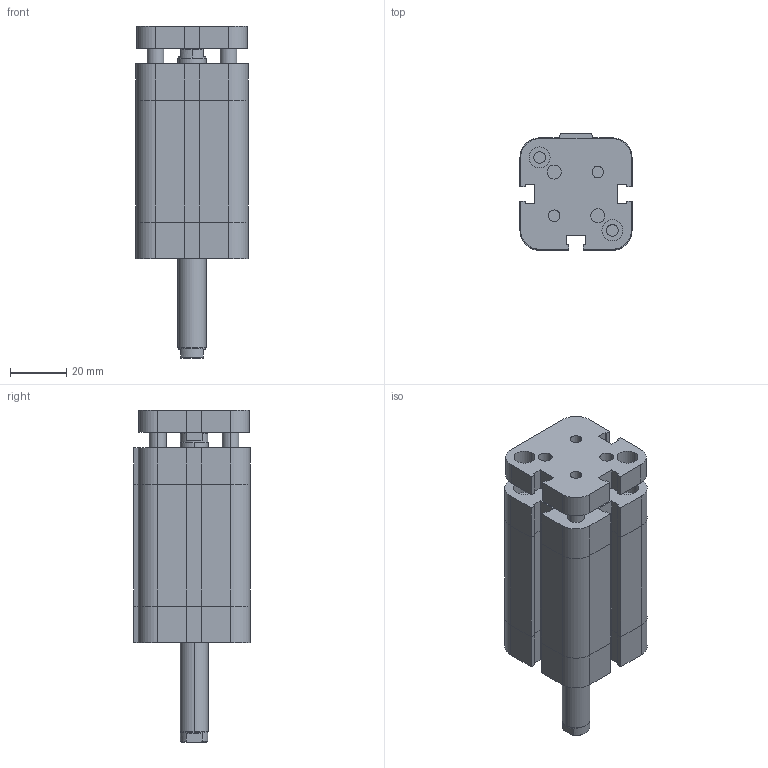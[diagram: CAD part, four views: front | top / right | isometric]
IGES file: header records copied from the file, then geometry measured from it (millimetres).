
Global section: file name: No Iges File Name specified; native system: Autodesk Inventor 2009; preprocessor: AutoDesk Inventor Iges Exporter R2009; author: maffial1; date: 20090420.202021; units: millimetre
Bounding box: 40 x 41.5 x 118.5 mm (x, y, z)
Volume: 114999.9 mm3; surface area: 31328 mm2
Topology: 2 solids, 2 shells, 241 faces, 570 edges, 354 vertices
Faces by surface type: plane 135, bspline 72, cylinder 26, cone 8
